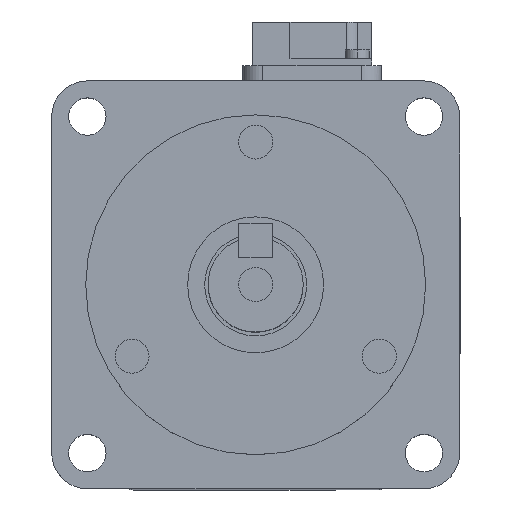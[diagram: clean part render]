
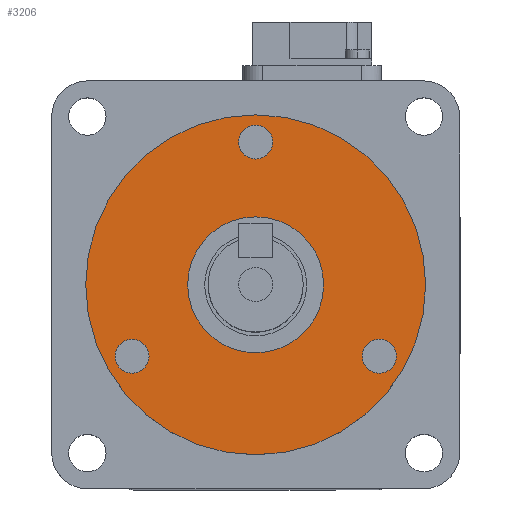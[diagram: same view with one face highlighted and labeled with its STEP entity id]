
A CAD part, top view. The second image highlights one B-rep face of the part: STEP entity #3206.
In plain terms, the highlighted planar face has unit normal (0, 0, 1).
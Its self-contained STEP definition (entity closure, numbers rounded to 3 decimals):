
#1160 = CARTESIAN_POINT ( 'NONE',  ( 20.687, -10.5, 3. ) ) ;
#1176 = CARTESIAN_POINT ( 'NONE',  ( -10., 0., 3. ) ) ;
#1182 = CARTESIAN_POINT ( 'NONE',  ( -2.5, 21., 3. ) ) ;
#1183 = CARTESIAN_POINT ( 'NONE',  ( -20.687, -10.5, 3. ) ) ;
#1195 = DIRECTION ( 'NONE',  ( -0.5, -0.866, 0. ) ) ;
#1196 = DIRECTION ( 'NONE',  ( 0., 0., 1. ) ) ;
#1197 = CARTESIAN_POINT ( 'NONE',  ( 18.187, -10.5, 3. ) ) ;
#1198 = AXIS2_PLACEMENT_3D ( 'NONE', #1197, #1196, #1195 ) ;
#1199 = CIRCLE ( 'NONE', #1198, 2.5 ) ;
#1200 = CARTESIAN_POINT ( 'NONE',  ( -15.687, -10.5, 3. ) ) ;
#1201 = DIRECTION ( 'NONE',  ( -0.5, 0.866, 0. ) ) ;
#1202 = DIRECTION ( 'NONE',  ( 0., 0., 1. ) ) ;
#1203 = CARTESIAN_POINT ( 'NONE',  ( -18.187, -10.5, 3. ) ) ;
#1204 = AXIS2_PLACEMENT_3D ( 'NONE', #1203, #1202, #1201 ) ;
#1205 = CIRCLE ( 'NONE', #1204, 2.5 ) ;
#1221 = DIRECTION ( 'NONE',  ( 1., 0., 0. ) ) ;
#1222 = DIRECTION ( 'NONE',  ( 0., 0., 1. ) ) ;
#1223 = CARTESIAN_POINT ( 'NONE',  ( 0., 21., 3. ) ) ;
#1224 = AXIS2_PLACEMENT_3D ( 'NONE', #1223, #1222, #1221 ) ;
#1225 = CIRCLE ( 'NONE', #1224, 2.5 ) ;
#1226 = CARTESIAN_POINT ( 'NONE',  ( 2.5, 21., 3. ) ) ;
#1227 = CARTESIAN_POINT ( 'NONE',  ( 15.687, -10.5, 3. ) ) ;
#1250 = CARTESIAN_POINT ( 'NONE',  ( 25., 0., 3. ) ) ;
#1253 = DIRECTION ( 'NONE',  ( -1., 0., 0. ) ) ;
#1254 = DIRECTION ( 'NONE',  ( 0., 0., -1. ) ) ;
#1255 = AXIS2_PLACEMENT_3D ( 'NONE', #1261, #1254, #1253 ) ;
#1256 = CIRCLE ( 'NONE', #1255, 25. ) ;
#1261 = CARTESIAN_POINT ( 'NONE',  ( 0., 0., 3. ) ) ;
#1293 = CARTESIAN_POINT ( 'NONE',  ( 10., 0., 3. ) ) ;
#1294 = DIRECTION ( 'NONE',  ( -1., 0., 0. ) ) ;
#1295 = DIRECTION ( 'NONE',  ( 0., 0., -1. ) ) ;
#1296 = CARTESIAN_POINT ( 'NONE',  ( 0., 0., 3. ) ) ;
#1297 = AXIS2_PLACEMENT_3D ( 'NONE', #1296, #1295, #1294 ) ;
#1298 = CIRCLE ( 'NONE', #1297, 10. ) ;
#1385 = CARTESIAN_POINT ( 'NONE',  ( -25., 0., 3. ) ) ;
#3185 = EDGE_LOOP ( 'NONE', ( #3186, #3188 ) ) ;
#3186 = ORIENTED_EDGE ( 'NONE', *, *, #3187, .F. ) ;
#3187 = EDGE_CURVE ( 'NONE', #7643, #7650, #9790, .T. ) ;
#3188 = ORIENTED_EDGE ( 'NONE', *, *, #7642, .F. ) ;
#3189 = EDGE_LOOP ( 'NONE', ( #3190, #3192 ) ) ;
#3190 = ORIENTED_EDGE ( 'NONE', *, *, #3191, .F. ) ;
#3191 = EDGE_CURVE ( 'NONE', #7663, #7652, #9785, .T. ) ;
#3192 = ORIENTED_EDGE ( 'NONE', *, *, #7664, .F. ) ;
#3193 = EDGE_LOOP ( 'NONE', ( #3194, #3245 ) ) ;
#3194 = ORIENTED_EDGE ( 'NONE', *, *, #3244, .T. ) ;
#3206 = ADVANCED_FACE ( 'NONE', ( #9830, #9829, #9828, #9827, #9826 ), #9825, .T. ) ;
#3207 = EDGE_LOOP ( 'NONE', ( #3256, #3258 ) ) ;
#3244 = EDGE_CURVE ( 'NONE', #7625, #7692, #9902, .T. ) ;
#3245 = ORIENTED_EDGE ( 'NONE', *, *, #7691, .T. ) ;
#3246 = EDGE_LOOP ( 'NONE', ( #3247, #3248 ) ) ;
#3247 = ORIENTED_EDGE ( 'NONE', *, *, #7676, .F. ) ;
#3248 = ORIENTED_EDGE ( 'NONE', *, *, #3249, .F. ) ;
#3249 = EDGE_CURVE ( 'NONE', #7681, #7741, #9894, .T. ) ;
#3256 = ORIENTED_EDGE ( 'NONE', *, *, #3257, .F. ) ;
#3257 = EDGE_CURVE ( 'NONE', #7631, #7662, #9882, .T. ) ;
#3258 = ORIENTED_EDGE ( 'NONE', *, *, #7644, .F. ) ;
#7625 = VERTEX_POINT ( 'NONE', #1176 ) ;
#7631 = VERTEX_POINT ( 'NONE', #1160 ) ;
#7642 = EDGE_CURVE ( 'NONE', #7650, #7643, #1205, .T. ) ;
#7643 = VERTEX_POINT ( 'NONE', #1200 ) ;
#7644 = EDGE_CURVE ( 'NONE', #7662, #7631, #1199, .T. ) ;
#7650 = VERTEX_POINT ( 'NONE', #1183 ) ;
#7652 = VERTEX_POINT ( 'NONE', #1182 ) ;
#7662 = VERTEX_POINT ( 'NONE', #1227 ) ;
#7663 = VERTEX_POINT ( 'NONE', #1226 ) ;
#7664 = EDGE_CURVE ( 'NONE', #7652, #7663, #1225, .T. ) ;
#7676 = EDGE_CURVE ( 'NONE', #7741, #7681, #1256, .T. ) ;
#7681 = VERTEX_POINT ( 'NONE', #1250 ) ;
#7691 = EDGE_CURVE ( 'NONE', #7692, #7625, #1298, .T. ) ;
#7692 = VERTEX_POINT ( 'NONE', #1293 ) ;
#7741 = VERTEX_POINT ( 'NONE', #1385 ) ;
#9781 = DIRECTION ( 'NONE',  ( 1., 0., 0. ) ) ;
#9782 = DIRECTION ( 'NONE',  ( 0., 0., 1. ) ) ;
#9783 = CARTESIAN_POINT ( 'NONE',  ( 0., 21., 3. ) ) ;
#9784 = AXIS2_PLACEMENT_3D ( 'NONE', #9783, #9782, #9781 ) ;
#9785 = CIRCLE ( 'NONE', #9784, 2.5 ) ;
#9786 = DIRECTION ( 'NONE',  ( -0.5, 0.866, 0. ) ) ;
#9787 = DIRECTION ( 'NONE',  ( 0., 0., 1. ) ) ;
#9788 = CARTESIAN_POINT ( 'NONE',  ( -18.187, -10.5, 3. ) ) ;
#9789 = AXIS2_PLACEMENT_3D ( 'NONE', #9788, #9787, #9786 ) ;
#9790 = CIRCLE ( 'NONE', #9789, 2.5 ) ;
#9821 = DIRECTION ( 'NONE',  ( 1., 0., 0. ) ) ;
#9822 = DIRECTION ( 'NONE',  ( 0., 0., 1. ) ) ;
#9823 = CARTESIAN_POINT ( 'NONE',  ( 0., 25., 3. ) ) ;
#9824 = AXIS2_PLACEMENT_3D ( 'NONE', #9823, #9822, #9821 ) ;
#9825 = PLANE ( 'NONE',  #9824 ) ;
#9826 = FACE_OUTER_BOUND ( 'NONE', #3246, .T. ) ;
#9827 = FACE_BOUND ( 'NONE', #3193, .T. ) ;
#9828 = FACE_BOUND ( 'NONE', #3189, .T. ) ;
#9829 = FACE_BOUND ( 'NONE', #3185, .T. ) ;
#9830 = FACE_BOUND ( 'NONE', #3207, .T. ) ;
#9879 = DIRECTION ( 'NONE',  ( -0.5, -0.866, 0. ) ) ;
#9880 = DIRECTION ( 'NONE',  ( 0., 0., 1. ) ) ;
#9881 = AXIS2_PLACEMENT_3D ( 'NONE', #9887, #9880, #9879 ) ;
#9882 = CIRCLE ( 'NONE', #9881, 2.5 ) ;
#9887 = CARTESIAN_POINT ( 'NONE',  ( 18.187, -10.5, 3. ) ) ;
#9890 = DIRECTION ( 'NONE',  ( -1., 0., 0. ) ) ;
#9891 = DIRECTION ( 'NONE',  ( 0., 0., -1. ) ) ;
#9892 = CARTESIAN_POINT ( 'NONE',  ( 0., 0., 3. ) ) ;
#9893 = AXIS2_PLACEMENT_3D ( 'NONE', #9892, #9891, #9890 ) ;
#9894 = CIRCLE ( 'NONE', #9893, 25. ) ;
#9895 = DIRECTION ( 'NONE',  ( -1., 0., 0. ) ) ;
#9896 = DIRECTION ( 'NONE',  ( 0., 0., -1. ) ) ;
#9897 = CARTESIAN_POINT ( 'NONE',  ( 0., 0., 3. ) ) ;
#9898 = AXIS2_PLACEMENT_3D ( 'NONE', #9897, #9896, #9895 ) ;
#9902 = CIRCLE ( 'NONE', #9898, 10. ) ;
